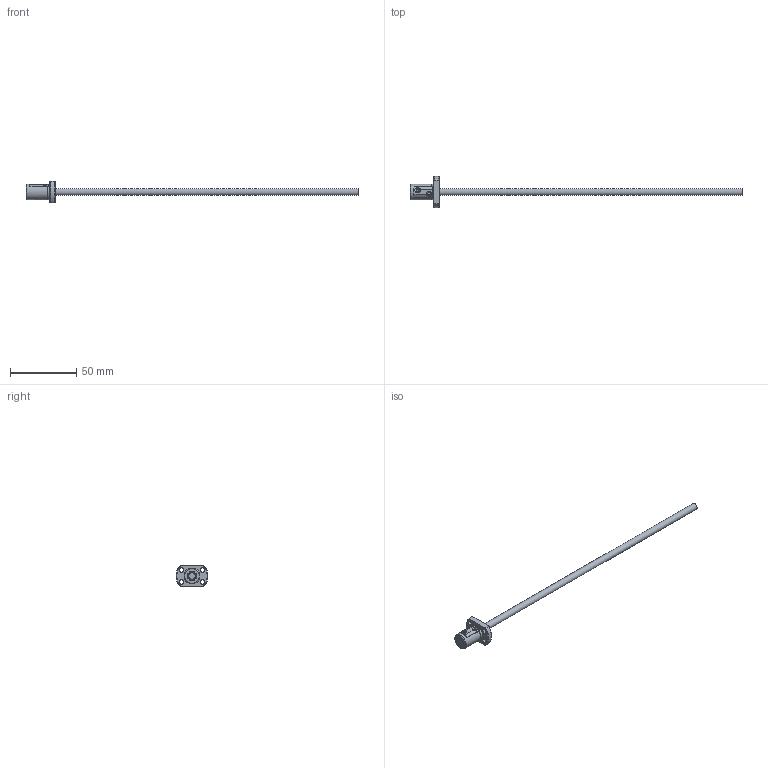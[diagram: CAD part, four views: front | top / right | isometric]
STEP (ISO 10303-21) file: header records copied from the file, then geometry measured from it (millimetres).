
FILE_DESCRIPTION( ( 'STEP AP203' ), '1' );
FILE_NAME( 'e:/temp/worker_100/temp/exporttempdir_1148_1871_uFXZc/format_0/SR0504-250R250C10(0).stp', '2021-10-19T03:53:44', ( 'License CC BY-ND 4.0' ), ( 'CADENAS' ), ' ', 'PARTsolutions', ' ' );
FILE_SCHEMA( ( 'CONFIG_CONTROL_DESIGN' ) );
Length unit declared in the file: millimetre
Products named in the file (3): SR0504-250R250C10(0); _SR0504-250R250C10C10(0)_shaft; _SR0504-250R250C10C10_nut
Assembly tree (2 placements, depth 2):
  SR0504-250R250C10(0)
    _SR0504-250R250C10C10(0)_shaft
    _SR0504-250R250C10C10_nut
Bounding box: 250 x 23.92 x 16 mm (x, y, z)
Volume: 7654 mm3; surface area: 6067.7 mm2
Topology: 2 solids, 2 shells, 58 faces, 149 edges, 98 vertices
Faces by surface type: plane 25, cylinder 24, cone 9
Full cylindrical faces by diameter (mm): 1.07 x2, 3.4 x4, 5 x2, 7 x2, 11.5 x1, 12 x1
Entity records: 1808 total; most frequent: CARTESIAN_POINT 363, DIRECTION 286, ORIENTED_EDGE 250, EDGE_CURVE 125, AXIS2_PLACEMENT_3D 118, VERTEX_POINT 91, EDGE_LOOP 88, FACE_OUTER_BOUND 70
